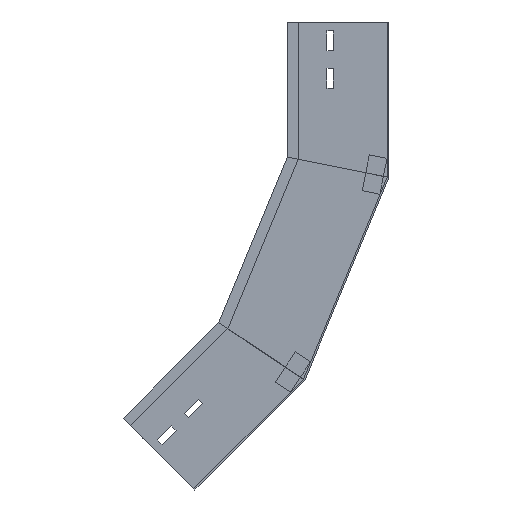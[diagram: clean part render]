
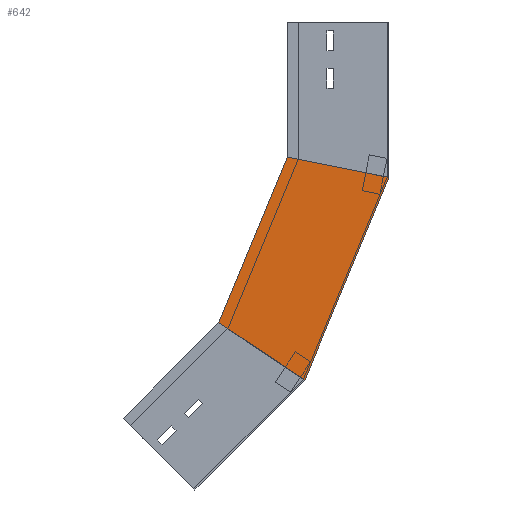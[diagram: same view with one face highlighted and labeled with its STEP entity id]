
A CAD part, left-side view. The second image highlights one B-rep face of the part: STEP entity #642.
In plain terms, the highlighted planar face has unit normal (-1, 0, 0) as drawn and (1, 0, 0) by its records, which use the part's own axes.
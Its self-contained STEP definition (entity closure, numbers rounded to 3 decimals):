
#56 = DIRECTION ( 'NONE',  ( -1., 0., 0. ) ) ;
#58 = CARTESIAN_POINT ( 'NONE',  ( 0., 188.403, -332.969 ) ) ;
#85 = DIRECTION ( 'NONE',  ( 0., 0.383, -0.924 ) ) ;
#162 = VECTOR ( 'NONE', #1317, 1000. ) ;
#206 = LINE ( 'NONE', #1267, #162 ) ;
#296 = CARTESIAN_POINT ( 'NONE',  ( 0., 93.03, -396.695 ) ) ;
#304 = CARTESIAN_POINT ( 'NONE',  ( 0., 0., -172.1 ) ) ;
#365 = ORIENTED_EDGE ( 'NONE', *, *, #742, .F. ) ;
#370 = VECTOR ( 'NONE', #967, 1000. ) ;
#386 = FACE_OUTER_BOUND ( 'NONE', #1332, .T. ) ;
#395 = EDGE_CURVE ( 'NONE', #1181, #1061, #206, .T. ) ;
#525 = PLANE ( 'NONE',  #1175 ) ;
#528 = VECTOR ( 'NONE', #815, 1000. ) ;
#642 = ADVANCED_FACE ( 'NONE', ( #386 ), #525, .F. ) ;
#693 = LINE ( 'NONE', #1171, #528 ) ;
#742 = EDGE_CURVE ( 'NONE', #1181, #882, #693, .T. ) ;
#743 = ORIENTED_EDGE ( 'NONE', *, *, #395, .T. ) ;
#757 = LINE ( 'NONE', #304, #1405 ) ;
#794 = ORIENTED_EDGE ( 'NONE', *, *, #1469, .F. ) ;
#815 = DIRECTION ( 'NONE',  ( 0., 0.383, -0.924 ) ) ;
#875 = DIRECTION ( 'NONE',  ( 0., 0., 1. ) ) ;
#882 = VERTEX_POINT ( 'NONE', #58 ) ;
#967 = DIRECTION ( 'NONE',  ( 0., -0.831, -0.556 ) ) ;
#995 = CARTESIAN_POINT ( 'NONE',  ( 0., 0., -172.1 ) ) ;
#1061 = VERTEX_POINT ( 'NONE', #1064 ) ;
#1064 = CARTESIAN_POINT ( 'NONE',  ( 0., 0., -172.1 ) ) ;
#1075 = CARTESIAN_POINT ( 'NONE',  ( 0., 112.5, -149.722 ) ) ;
#1171 = CARTESIAN_POINT ( 'NONE',  ( 0., 103.936, -129.048 ) ) ;
#1172 = EDGE_CURVE ( 'NONE', #1061, #1240, #757, .T. ) ;
#1175 = AXIS2_PLACEMENT_3D ( 'NONE', #995, #56, #875 ) ;
#1181 = VERTEX_POINT ( 'NONE', #1075 ) ;
#1214 = LINE ( 'NONE', #1327, #370 ) ;
#1240 = VERTEX_POINT ( 'NONE', #296 ) ;
#1267 = CARTESIAN_POINT ( 'NONE',  ( 0., 32.93, -165.55 ) ) ;
#1317 = DIRECTION ( 'NONE',  ( 0., -0.981, -0.195 ) ) ;
#1327 = CARTESIAN_POINT ( 'NONE',  ( 0., 132.464, -370.346 ) ) ;
#1332 = EDGE_LOOP ( 'NONE', ( #365, #743, #1435, #794 ) ) ;
#1405 = VECTOR ( 'NONE', #85, 1000. ) ;
#1435 = ORIENTED_EDGE ( 'NONE', *, *, #1172, .T. ) ;
#1469 = EDGE_CURVE ( 'NONE', #882, #1240, #1214, .T. ) ;
